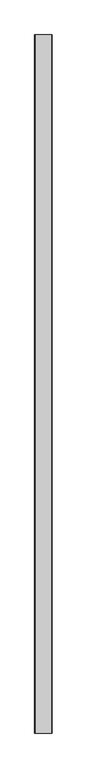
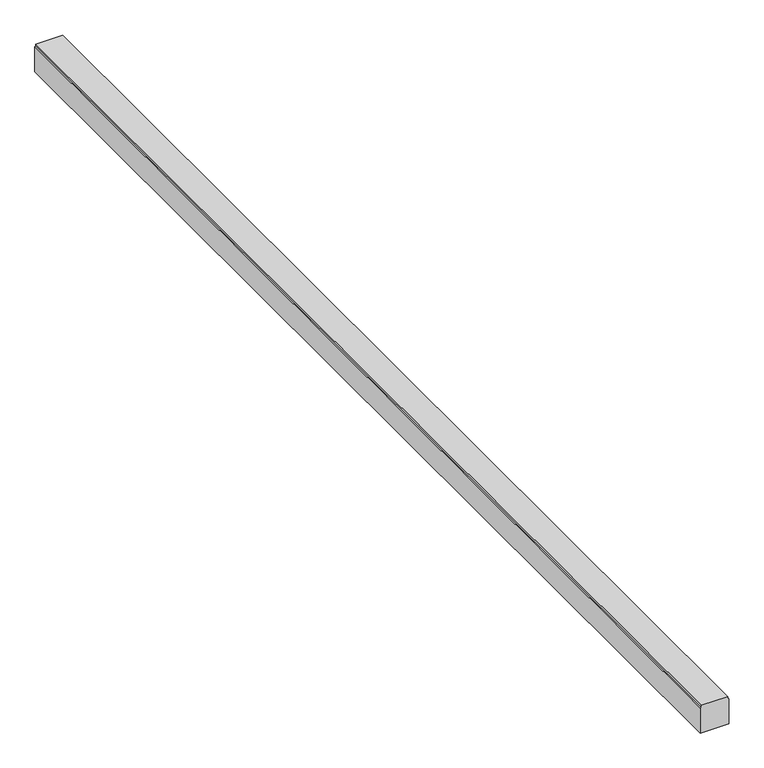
"""IFC4 building model written with IfcOpenShell, lengths in millimetres: proxy geometry, Кабель-каналы_перфорированные : Кабель-канал перфорированный 50х50 перфорация 4/6мм."""

from ifc_helpers import new_model, si_unit, frame, origin, place, context, project, spatial, polyline, outline, extrude, source, transform, mapped, element, save


def generic_models_ee9193d7(model_context):
    return source(origin(), model_context, "Body", "SweptSolid", [
        extrude(outline(polyline([(500.0, 0.0), (545.4686048, 0.0), (546.545727, -1.696289), (550.0, -1.696289), (550.0, -48.1977999), (546.3616607, -48.1977999), (545.4772989, -50.0), (500.0, -50.0), (500.0, 0.0)])), frame((0.0, -2000.0, 0.0), z_axis=(0.0, 1.0, 0.0), x_axis=(0.0, 0.0, 1.0)), (0.0, 0.0, 1.0), 2000.0),
    ])


if __name__ == "__main__":
    model = new_model("IFC4")
    model_context = context("Model", 3, world=origin())
    ifc_project = project(units=[si_unit("LENGTHUNIT", "METRE", prefix="MILLI")], contexts=[model_context])
    site = spatial("IfcSite", under=ifc_project)
    building = spatial("IfcBuilding", under=site)
    placement = place(None, origin())
    generic_models_shape = generic_models_ee9193d7(model_context)
    element("IfcBuildingElementProxy", 1, Name="Кабель-каналы_перфорированные : Кабель-канал перфорированный 50х50 перфорация 4/6мм", ObjectType="Кабель-каналы_перфорированные : Кабель-канал перфорированный 50х50 перфорация 4/6мм", at=placement, inside=building, context=model_context, shape_type="MappedRepresentation", body=[
        mapped(generic_models_shape, transform((0.0, 0.0, 0.0), x_axis=(1.0, 0.0, 0.0), y_axis=(0.0, 1.0, 0.0), z_axis=(0.0, 0.0, 1.0))),
    ])
    save(model, "model.ifc")
